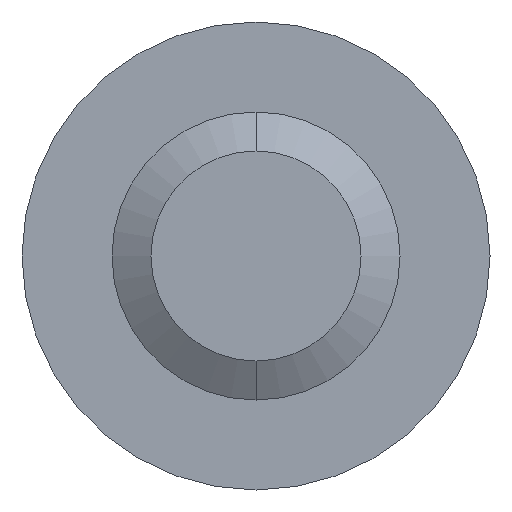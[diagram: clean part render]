
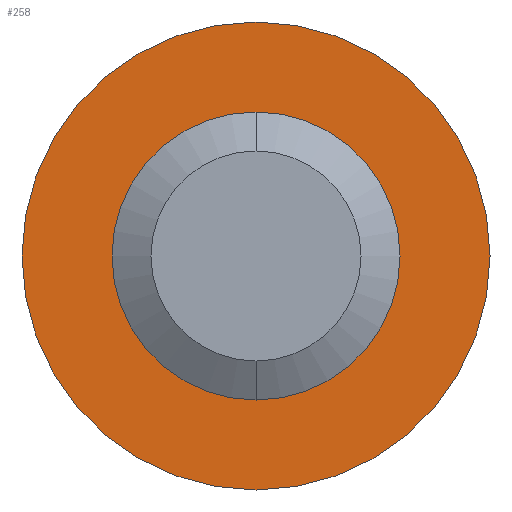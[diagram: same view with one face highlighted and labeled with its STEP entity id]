
A CAD part, front view. The second image highlights one B-rep face of the part: STEP entity #258.
In plain terms, the highlighted planar face has unit normal (0, -1, 0).
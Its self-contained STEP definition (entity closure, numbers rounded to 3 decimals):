
#40 = AXIS2_PLACEMENT_3D ( 'NONE', #2062, #124, #629 ) ;
#49 = CIRCLE ( 'NONE', #1684, 4. ) ;
#124 = DIRECTION ( 'NONE',  ( 0., 1., 0. ) ) ;
#174 = AXIS2_PLACEMENT_3D ( 'NONE', #405, #723, #585 ) ;
#186 = VERTEX_POINT ( 'NONE', #1561 ) ;
#258 = ADVANCED_FACE ( 'NONE', ( #311, #2072 ), #1423, .F. ) ;
#267 = VERTEX_POINT ( 'NONE', #651 ) ;
#311 = FACE_OUTER_BOUND ( 'NONE', #653, .T. ) ;
#350 = EDGE_LOOP ( 'NONE', ( #730, #1427 ) ) ;
#386 = DIRECTION ( 'NONE',  ( 0., 0., 1. ) ) ;
#397 = CARTESIAN_POINT ( 'NONE',  ( 0., 16., 4. ) ) ;
#405 = CARTESIAN_POINT ( 'NONE',  ( 0., 16., 0. ) ) ;
#516 = VERTEX_POINT ( 'NONE', #1461 ) ;
#554 = CARTESIAN_POINT ( 'NONE',  ( 0., 16., 0. ) ) ;
#562 = DIRECTION ( 'NONE',  ( 0., 1., 0. ) ) ;
#571 = AXIS2_PLACEMENT_3D ( 'NONE', #1231, #562, #877 ) ;
#585 = DIRECTION ( 'NONE',  ( 0., 0., 1. ) ) ;
#629 = DIRECTION ( 'NONE',  ( 0., 0., 1. ) ) ;
#651 = CARTESIAN_POINT ( 'NONE',  ( 0., 16., -4. ) ) ;
#653 = EDGE_LOOP ( 'NONE', ( #1445, #1155 ) ) ;
#684 = EDGE_CURVE ( 'NONE', #186, #516, #1953, .T. ) ;
#715 = CIRCLE ( 'NONE', #174, 4. ) ;
#723 = DIRECTION ( 'NONE',  ( 0., 1., 0. ) ) ;
#730 = ORIENTED_EDGE ( 'NONE', *, *, #1371, .T. ) ;
#877 = DIRECTION ( 'NONE',  ( 0., 0., 1. ) ) ;
#880 = AXIS2_PLACEMENT_3D ( 'NONE', #554, #1045, #386 ) ;
#927 = DIRECTION ( 'NONE',  ( 0., 0., 1. ) ) ;
#974 = VERTEX_POINT ( 'NONE', #397 ) ;
#1045 = DIRECTION ( 'NONE',  ( 0., 1., 0. ) ) ;
#1155 = ORIENTED_EDGE ( 'NONE', *, *, #1893, .F. ) ;
#1231 = CARTESIAN_POINT ( 'NONE',  ( 0., 16., 0. ) ) ;
#1371 = EDGE_CURVE ( 'NONE', #267, #974, #49, .T. ) ;
#1423 = PLANE ( 'NONE',  #40 ) ;
#1427 = ORIENTED_EDGE ( 'NONE', *, *, #1697, .T. ) ;
#1438 = DIRECTION ( 'NONE',  ( 0., 1., 0. ) ) ;
#1445 = ORIENTED_EDGE ( 'NONE', *, *, #684, .F. ) ;
#1461 = CARTESIAN_POINT ( 'NONE',  ( 0., 16., 6.5 ) ) ;
#1561 = CARTESIAN_POINT ( 'NONE',  ( 0., 16., -6.5 ) ) ;
#1684 = AXIS2_PLACEMENT_3D ( 'NONE', #2079, #1438, #927 ) ;
#1697 = EDGE_CURVE ( 'NONE', #974, #267, #715, .T. ) ;
#1821 = CIRCLE ( 'NONE', #880, 6.5 ) ;
#1893 = EDGE_CURVE ( 'NONE', #516, #186, #1821, .T. ) ;
#1953 = CIRCLE ( 'NONE', #571, 6.5 ) ;
#2062 = CARTESIAN_POINT ( 'NONE',  ( 0., 16., 0. ) ) ;
#2072 = FACE_BOUND ( 'NONE', #350, .T. ) ;
#2079 = CARTESIAN_POINT ( 'NONE',  ( 0., 16., 0. ) ) ;
